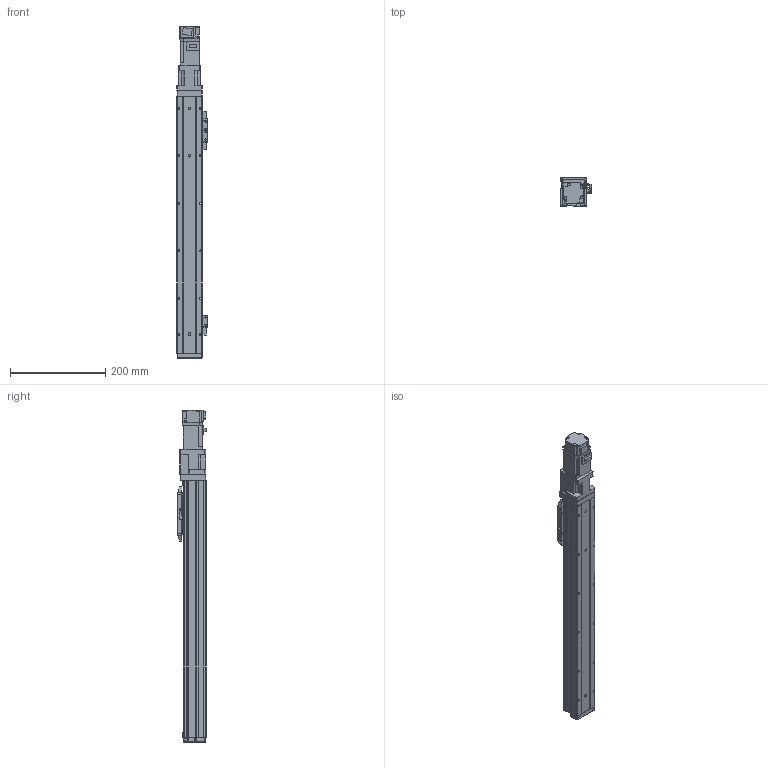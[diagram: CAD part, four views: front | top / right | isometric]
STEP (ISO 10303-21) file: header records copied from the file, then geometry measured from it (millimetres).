
FILE_DESCRIPTION (( 'STEP AP214' ), '1' );
FILE_NAME ('N_GRH5-400-BC-M10.step', '2025-03-14T09:34:00', ( '' ), ( '' ), 'SwSTEP 2.0', 'SolidWorks 2016', '' );
FILE_SCHEMA (( 'AUTOMOTIVE_DESIGN' ));
Length unit declared in the file: millimetre
Products named in the file (5): N_GRH5-GY-011^N_GRH5-400-BC-M10; N_GRH5-GY-004^N_GRH5-400-BC-M10; N_GRH5-400-BC-M10; HF-KP13_100W_Motor^N_GRH5-400-BC-M10; N_GRH5-BC-008^N_GRH5-400-BC-M10
Assembly tree (4 placements, depth 2):
  N_GRH5-400-BC-M10
    N_GRH5-GY-011^N_GRH5-400-BC-M10
    N_GRH5-GY-004^N_GRH5-400-BC-M10
    N_GRH5-BC-008^N_GRH5-400-BC-M10
    HF-KP13_100W_Motor^N_GRH5-400-BC-M10
Bounding box: 64.05 x 60.7 x 697.9 mm (x, y, z)
Volume: 1169468.4 mm3; surface area: 310290.1 mm2
Topology: 4 solids, 5 shells, 924 faces, 2390 edges, 1519 vertices
Faces by surface type: plane 552, cylinder 312, cone 58, sphere 2
Entity records: 34542 total; most frequent: CARTESIAN_POINT 4876, DIRECTION 4865, ORIENTED_EDGE 4708, EDGE_CURVE 2354, VECTOR 1669, LINE 1669, AXIS2_PLACEMENT_3D 1598, VERTEX_POINT 1517
